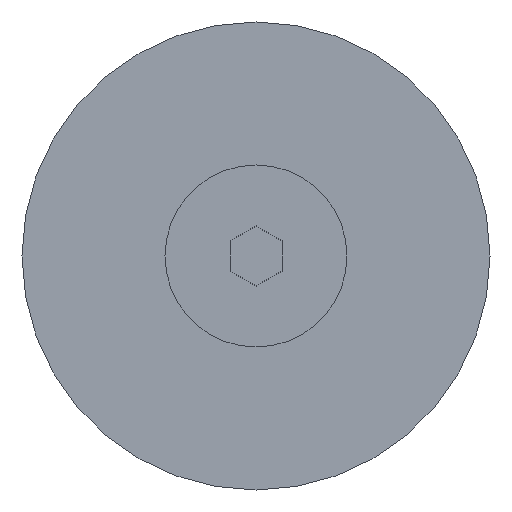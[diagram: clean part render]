
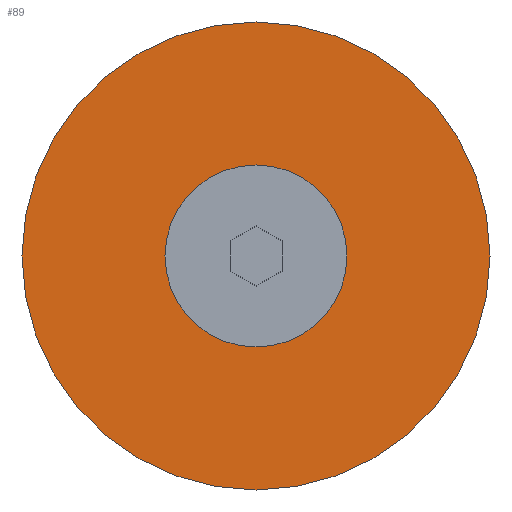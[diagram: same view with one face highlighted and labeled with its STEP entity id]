
A CAD part, front view. The second image highlights one B-rep face of the part: STEP entity #89.
In plain terms, the highlighted planar face has unit normal (0, -1, 0).
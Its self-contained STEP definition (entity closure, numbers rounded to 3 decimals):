
#89 = ADVANCED_FACE( '', ( #136, #137 ), #138, .F. );
#136 = FACE_BOUND( '', #197, .T. );
#137 = FACE_OUTER_BOUND( '', #198, .T. );
#138 = PLANE( '', #199 );
#197 = EDGE_LOOP( '', ( #319 ) );
#198 = EDGE_LOOP( '', ( #320 ) );
#199 = AXIS2_PLACEMENT_3D( '', #321, #322, #323 );
#319 = ORIENTED_EDGE( '', *, *, #420, .F. );
#320 = ORIENTED_EDGE( '', *, *, #421, .T. );
#321 = CARTESIAN_POINT( '', ( 9., -11.75, 0. ) );
#322 = DIRECTION( '', ( 0., 1., 0. ) );
#323 = DIRECTION( '', ( 0., 0., 1. ) );
#420 = EDGE_CURVE( '', #490, #490, #491, .T. );
#421 = EDGE_CURVE( '', #492, #492, #493, .T. );
#490 = VERTEX_POINT( '', #594 );
#491 = CIRCLE( '', #595, 3.5 );
#492 = VERTEX_POINT( '', #596 );
#493 = CIRCLE( '', #597, 9. );
#594 = CARTESIAN_POINT( '', ( 0., -11.75, -3.5 ) );
#595 = AXIS2_PLACEMENT_3D( '', #674, #675, #676 );
#596 = CARTESIAN_POINT( '', ( 0., -11.75, -9. ) );
#597 = AXIS2_PLACEMENT_3D( '', #677, #678, #679 );
#674 = CARTESIAN_POINT( '', ( 0., -11.75, 0. ) );
#675 = DIRECTION( '', ( 0., -1., 0. ) );
#676 = DIRECTION( '', ( 0., 0., -1. ) );
#677 = CARTESIAN_POINT( '', ( 0., -11.75, 0. ) );
#678 = DIRECTION( '', ( 0., -1., 0. ) );
#679 = DIRECTION( '', ( 0., 0., -1. ) );
